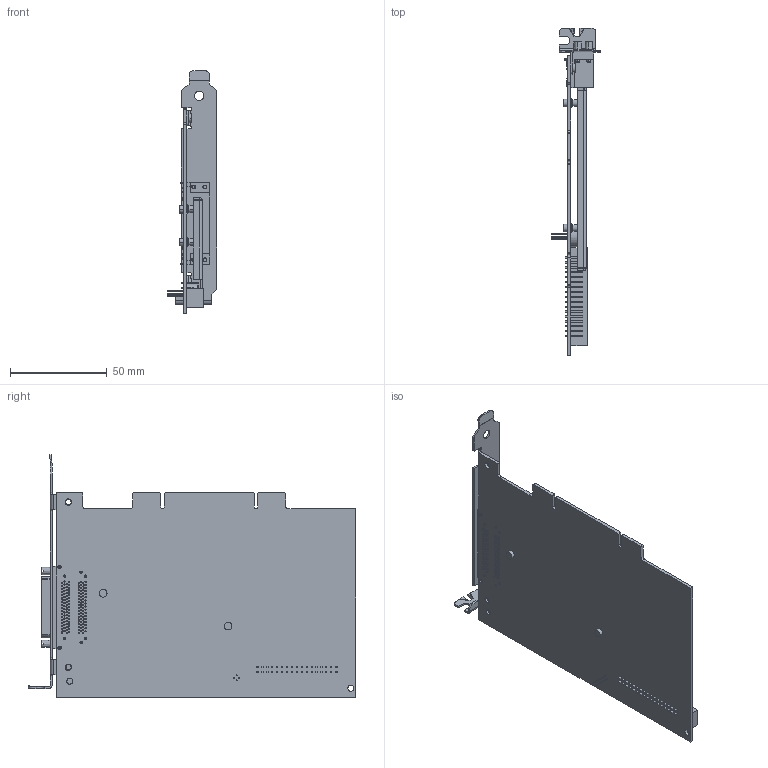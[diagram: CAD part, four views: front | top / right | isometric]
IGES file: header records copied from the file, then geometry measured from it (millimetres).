
Start section:  PTC IGES file: cu-pci-2vhdci.igs
Global section: file name: cu-pci-2vhdci.igs; native system: Pro/ENGINEER by Parametric Technology Corporation; preprocessor: 2006300; author: chrisj; organization: Unknown; date: 20080508.091813; units: inch
Bounding box: 25.73 x 169.49 x 125.41 mm (x, y, z)
Surface area: 56740.5 mm2 (no closed solid volume)
Topology: 0 solids, 0 shells, 1491 faces, 7212 edges, 7210 vertices
Faces by surface type: bspline 913, revolution 578
